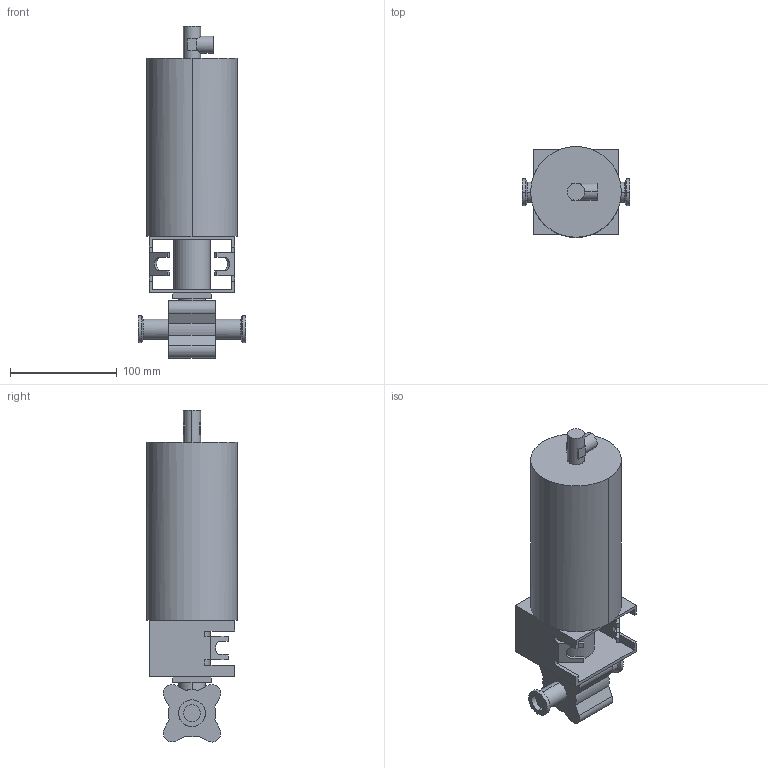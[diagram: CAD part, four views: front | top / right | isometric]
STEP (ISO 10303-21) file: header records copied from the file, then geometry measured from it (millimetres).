
FILE_DESCRIPTION(('Creo Elements/Direct Modeling STEP Export'),'2;1');
FILE_NAME('BLV1-0.75T-NC-12CL.stp','2019-05-10T 7:53:50',(''),(''),'Creo Elements/Direct Modeling STEP processor for AP214 (Solid Model)','Creo Elements/Direct Modeling 19.0F 14-Feb-2017 (C) Parametric Technology GmbH','');
FILE_SCHEMA(('AUTOMOTIVE_DESIGN { 1 0 10303 214 1 1 1 1 }'));
Length unit declared in the file: millimetre
Products named in the file (2): BLV1-0.75T-NC-12CL
Assembly tree (1 placements, depth 2):
  BLV1-0.75T-NC-12CL
    BLV1-0.75T-NC-12CL
Bounding box: 101 x 85 x 310.93 mm (x, y, z)
Volume: 1186952.1 mm3; surface area: 110504.2 mm2
Topology: 1 solids, 1 shells, 117 faces, 311 edges, 202 vertices
Faces by surface type: plane 80, cylinder 33, cone 4
Entity records: 3337 total; most frequent: ORIENTED_EDGE 622, CARTESIAN_POINT 599, DIRECTION 495, EDGE_CURVE 311, VERTEX_POINT 202, VECTOR 195, LINE 195, AXIS2_PLACEMENT_3D 150
